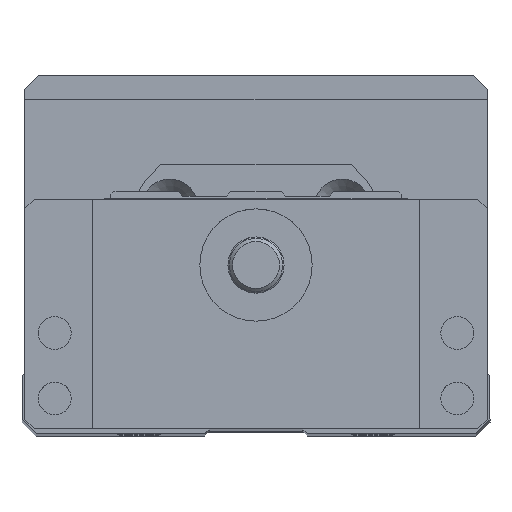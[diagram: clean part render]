
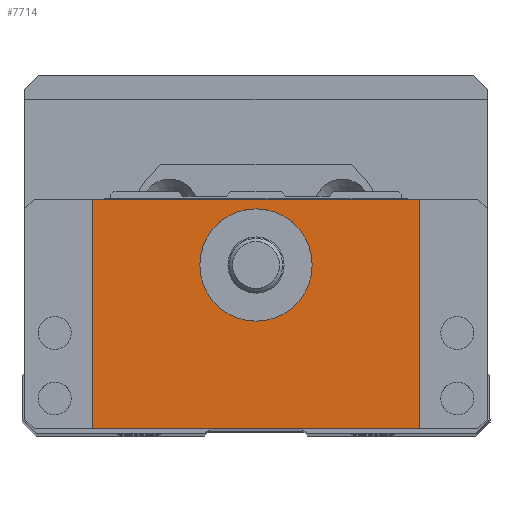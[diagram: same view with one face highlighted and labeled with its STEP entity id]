
A CAD part, top view. The second image highlights one B-rep face of the part: STEP entity #7714.
In plain terms, the highlighted planar face has unit normal (0, 0, 1).
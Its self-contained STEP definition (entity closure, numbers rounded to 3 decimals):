
#5394=PLANE('',#15833);
#6235=LINE('',#28416,#7094);
#6237=LINE('',#28422,#7096);
#6238=LINE('',#28425,#7097);
#6239=LINE('',#28426,#7098);
#7094=VECTOR('',#18663,1.);
#7096=VECTOR('',#18669,1.);
#7097=VECTOR('',#18670,1.);
#7098=VECTOR('',#18671,1.);
#7714=ADVANCED_FACE('',(#8283,#8284),#5394,.T.);
#8283=FACE_BOUND('',#9093,.T.);
#8284=FACE_BOUND('',#9094,.T.);
#9093=EDGE_LOOP('',(#11916));
#9094=EDGE_LOOP('',(#11917,#11918,#11919,#11920));
#11916=ORIENTED_EDGE('',*,*,#14397,.T.);
#11917=ORIENTED_EDGE('',*,*,#14398,.T.);
#11918=ORIENTED_EDGE('',*,*,#14399,.T.);
#11919=ORIENTED_EDGE('',*,*,#14395,.T.);
#11920=ORIENTED_EDGE('',*,*,#14400,.T.);
#12970=VERTEX_POINT('',#28415);
#12971=VERTEX_POINT('',#28417);
#12972=VERTEX_POINT('',#28421);
#12973=VERTEX_POINT('',#28423);
#12974=VERTEX_POINT('',#28424);
#14395=EDGE_CURVE('',#12971,#12970,#6235,.T.);
#14397=EDGE_CURVE('',#12972,#12972,#14835,.T.);
#14398=EDGE_CURVE('',#12973,#12974,#6237,.T.);
#14399=EDGE_CURVE('',#12974,#12971,#6238,.T.);
#14400=EDGE_CURVE('',#12970,#12973,#6239,.T.);
#14835=CIRCLE('',#15832,6.);
#15832=AXIS2_PLACEMENT_3D('',#28420,#18667,#18668);
#15833=AXIS2_PLACEMENT_3D('',#28427,#18672,#18673);
#18663=DIRECTION('',(-1.,0.,0.));
#18667=DIRECTION('',(0.,0.,-1.));
#18668=DIRECTION('',(1.,0.,0.));
#18669=DIRECTION('',(1.,0.,0.));
#18670=DIRECTION('',(0.,1.,0.));
#18671=DIRECTION('',(0.,-1.,0.));
#18672=DIRECTION('',(0.,0.,1.));
#18673=DIRECTION('',(1.,0.,0.));
#28415=CARTESIAN_POINT('',(282.5,-15.5,1.5));
#28416=CARTESIAN_POINT('',(324.7,-15.5,1.5));
#28417=CARTESIAN_POINT('',(317.5,-15.5,1.5));
#28420=CARTESIAN_POINT('',(300.,-22.5,1.5));
#28421=CARTESIAN_POINT('',(306.,-22.5,1.5));
#28422=CARTESIAN_POINT('',(275.3,-40.,1.5));
#28423=CARTESIAN_POINT('',(282.5,-40.,1.5));
#28424=CARTESIAN_POINT('',(317.5,-40.,1.5));
#28425=CARTESIAN_POINT('',(317.5,-40.,1.5));
#28426=CARTESIAN_POINT('',(282.5,-40.,1.5));
#28427=CARTESIAN_POINT('',(324.7,-40.,1.5));
